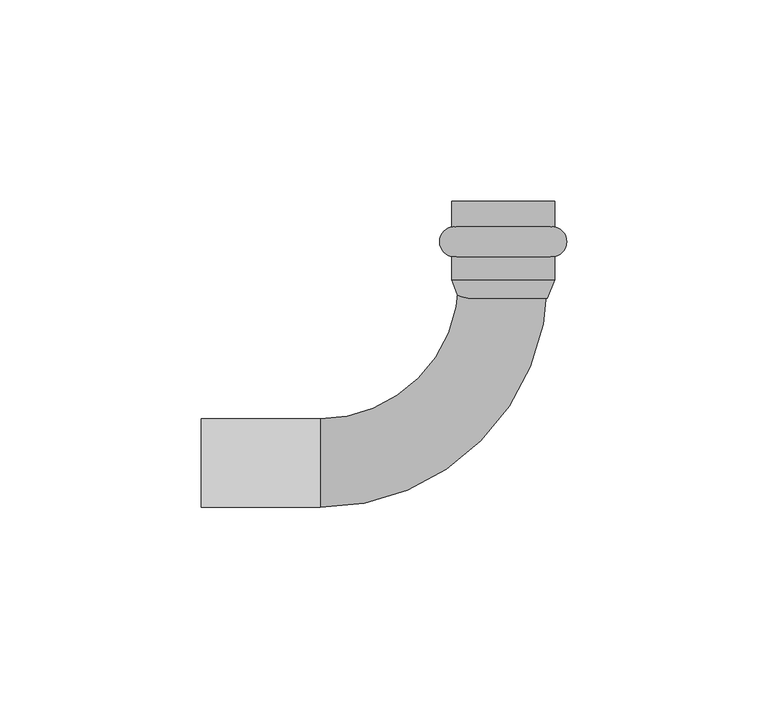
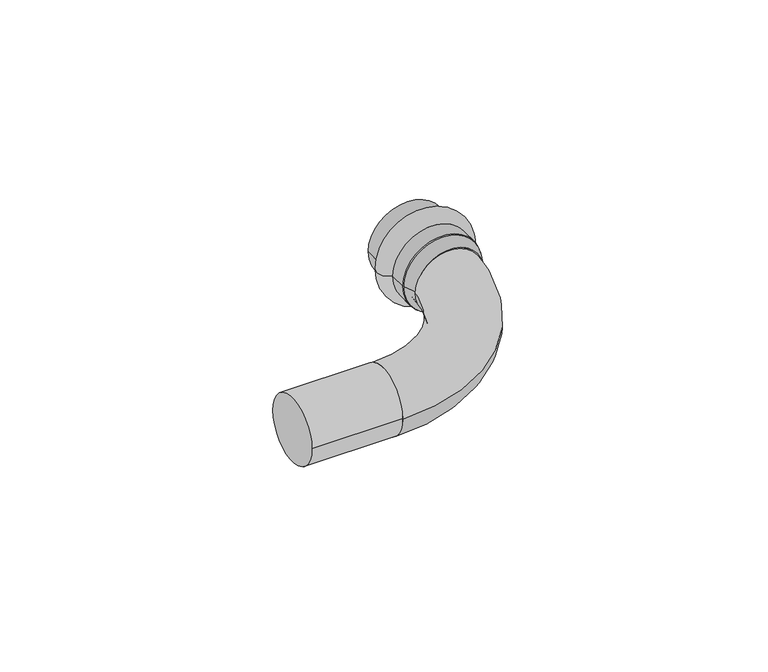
"""IFC4 building model written with IfcOpenShell, lengths in millimetres: pipe fitting geometry, VALTEC_VTi.950.I_Угольник 90° (раструб–труба) нержавеющая сталь : VTi.950.I."""

from ifc_helpers import new_model, si_unit, point, frame, origin, origin_2d, place, context, project, spatial, polyline, circle_curve, ellipse_curve, trimmed, segment, composite_curve, outline, extrude, source, transform, mapped, element, save
from ifc_brep_helpers import plane_surface, cylinder_surface, revolved_surface, advanced_brep


def pipe_fitting_78a133ea(model_context):
    return source(origin(), model_context, "Body", "SolidModel", [
        advanced_brep(
        [(-12.8, 58.6242346, 0.0), (12.8, 58.6242346, 0.0), (12.8, 51.2757654, 0.0), (-12.8, 51.2757654, 0.0), (-12.8, 65.0, 0.0), (12.8, 65.0, 0.0), (-11.0, 65.0, 0.0), (11.0, 65.0, 0.0), (-11.0, 45.5, 0.0), (11.0, 45.5, 0.0), (-12.8, 45.5, 0.0), (12.8, 45.5, 0.0)],
        [
            (0, 1, circle_curve(frame((0.0, 58.6242346, 0.0), z_axis=(0.0, -1.0, 0.0), x_axis=(1.0, 0.0, 0.0)), 12.8)),
            (1, 2, circle_curve(frame((12.05, 54.95, 0.0), z_axis=(0.0, 0.0, -1.0), x_axis=(0.0, -1.0, 0.0)), 3.75)),
            (2, 3, circle_curve(frame((0.0, 51.2757654, 0.0), z_axis=(0.0, 1.0, 0.0), x_axis=(1.0, 0.0, 0.0)), 12.8)),
            (3, 0, circle_curve(frame((-12.05, 54.95, 0.0), z_axis=(0.0, 0.0, -1.0), x_axis=(0.0, -1.0, 0.0)), 3.75)),
            (1, 0, circle_curve(frame((0.0, 58.6242346, 0.0), z_axis=(0.0, -1.0, 0.0), x_axis=(1.0, 0.0, 0.0)), 12.8)),
            (3, 2, circle_curve(frame((0.0, 51.2757654, 0.0), z_axis=(0.0, 1.0, 0.0), x_axis=(1.0, 0.0, 0.0)), 12.8)),
            (4, 5, circle_curve(frame((0.0, 65.0, 0.0), z_axis=(0.0, -1.0, 0.0), x_axis=(1.0, 0.0, 0.0)), 12.8)),
            (5, 1),
            (0, 4),
            (5, 4, circle_curve(frame((0.0, 65.0, 0.0), z_axis=(0.0, -1.0, 0.0), x_axis=(1.0, 0.0, 0.0)), 12.8)),
            (6, 7, circle_curve(frame((0.0, 65.0, 0.0), z_axis=(0.0, -1.0, 0.0), x_axis=(1.0, 0.0, 0.0)), 11.0)),
            (7, 5),
            (4, 6),
            (7, 6, circle_curve(frame((0.0, 65.0, 0.0), z_axis=(0.0, -1.0, 0.0), x_axis=(1.0, 0.0, 0.0)), 11.0)),
            (8, 9, circle_curve(frame((0.0, 45.5, 0.0), z_axis=(0.0, -1.0, 0.0), x_axis=(1.0, 0.0, 0.0)), 11.0)),
            (9, 7),
            (6, 8),
            (9, 8, circle_curve(frame((0.0, 45.5, 0.0), z_axis=(0.0, -1.0, 0.0), x_axis=(1.0, 0.0, 0.0)), 11.0)),
            (10, 11, circle_curve(frame((0.0, 45.5, 0.0), z_axis=(0.0, -1.0, 0.0), x_axis=(1.0, 0.0, 0.0)), 12.8)),
            (11, 9),
            (8, 10),
            (11, 10, circle_curve(frame((0.0, 45.5, 0.0), z_axis=(0.0, -1.0, 0.0), x_axis=(1.0, 0.0, 0.0)), 12.8)),
            (2, 11),
            (10, 3),
        ],
        [
            revolved_surface(trimmed(ellipse_curve(frame((12.05, 54.95, 0.0), z_axis=(0.0, 0.0, 1.0), x_axis=(0.0, -1.0, 0.0)), 3.75, 3.75), [point((12.8, 51.2757654, 0.0))], [point((12.8, 58.6242346, 0.0))], True, "CARTESIAN"), (0.0, 68.5364426, 0.0), (0.0, 1.0, 0.0)),
            cylinder_surface(frame((0.0, 68.5364426, 0.0), z_axis=(0.0, 1.0, 0.0), x_axis=(1.0, 0.0, 0.0)), 12.8),
            plane_surface(frame((0.0, 65.0, 0.0), z_axis=(0.0, 1.0, 0.0), x_axis=(1.0, 0.0, 0.0))),
            revolved_surface(polyline([(11.0, 65.0, 0.0), (11.0, 45.5, 0.0)]), (0.0, 68.5364426, 0.0), (0.0, 1.0, 0.0)),
            plane_surface(frame((0.0, 45.5, 0.0), z_axis=(0.0, -1.0, 0.0), x_axis=(1.0, 0.0, 0.0))),
        ],
        [
            (0, [[1, 2, 3, 4]]),
            (0, [[5, -4, 6, -2]]),
            (1, [[7, 8, -1, 9]]),
            (1, [[10, -9, -5, -8]]),
            (2, [[11, 12, -7, 13]]),
            (2, [[14, -13, -10, -12]]),
            (3, [[15, 16, -11, 17]]),
            (3, [[18, -17, -14, -16]]),
            (4, [[19, 20, -15, 21]]),
            (4, [[22, -21, -18, -20]]),
            (1, [[-3, 23, -19, 24]]),
            (1, [[-6, -24, -22, -23]]),
        ],
    ),
        extrude(outline(composite_curve([segment(trimmed(circle_curve(origin_2d(), 11.0), [point((-11.0, 0.0))], [point((11.0, 0.0))], False, "CARTESIAN"), True, "CONTINUOUS"), segment(trimmed(circle_curve(origin_2d(), 11.0), [point((11.0, 0.0))], [point((-11.0, 0.0))], False, "CARTESIAN"), True, "CONTINUOUS")], self_intersect=False)), frame((-75.0, 0.0, 0.0), z_axis=(1.0, 0.0, 0.0), x_axis=(0.0, 1.0, 0.0)), (0.0, 0.0, 1.0), 29.5),
        advanced_brep(
        [(-12.8, 45.5, 0.0), (12.8, 45.5, 0.0), (-11.0, 40.95, 0.0), (11.0, 40.95, 0.0)],
        [
            (0, 1, circle_curve(frame((0.0, 45.5, 0.0), z_axis=(0.0, 1.0, 0.0), x_axis=(-1.0, 0.0, 0.0)), 12.8)),
            (1, 0, circle_curve(frame((0.0, 45.5, 0.0), z_axis=(0.0, 1.0, 0.0), x_axis=(1.0, 0.0, 0.0)), 12.8)),
            (2, 3, circle_curve(frame((0.0, 40.95, 0.0), z_axis=(0.0, -1.0, 0.0), x_axis=(1.0, 0.0, 0.0)), 11.0)),
            (3, 2, circle_curve(frame((0.0, 40.95, 0.0), z_axis=(0.0, -1.0, 0.0), x_axis=(-1.0, 0.0, 0.0)), 11.0)),
            (2, 0),
            (1, 3),
        ],
        [
            plane_surface(frame((0.0, 45.5, 0.0), z_axis=(0.0, 1.0, 0.0), x_axis=(0.0, 0.0, -1.0))),
            plane_surface(frame((0.0, 40.95, 0.0), z_axis=(0.0, -1.0, 0.0), x_axis=(0.0, 0.0, -1.0))),
            revolved_surface(polyline([(-11.000000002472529, 40.95, 0.0), (-12.8, 45.5, 0.0)]), (0.0, 13.1444444, 0.0), (0.0, 1.0, 0.0)),
            revolved_surface(polyline([(11.000000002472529, 40.95, 0.0), (12.8, 45.5, 0.0)]), (0.0, 13.1444444, 0.0), (0.0, 1.0, 0.0)),
        ],
        [
            (0, [[1, 2]]),
            (1, [[3, 4]]),
            (2, [[-3, 5, -2, 6]]),
            (3, [[-4, -6, -1, -5]]),
        ],
    ),
        advanced_brep(
        [(-45.5, -11.0551605, 0.0), (-45.5, 10.9448395, 0.0), (11.0551605, 45.5, 0.0), (-10.9448395, 45.5, 0.0)],
        [
            (0, 1, circle_curve(frame((-45.5, -0.0551605, 0.0), z_axis=(-1.0, 0.0, 0.0), x_axis=(0.0, 1.0, 0.0)), 11.0)),
            (1, 0, circle_curve(frame((-45.5, -0.0551605, 0.0), z_axis=(-1.0, 0.0, 0.0), x_axis=(0.0, 1.0, 0.0)), 11.0)),
            (2, 3, circle_curve(frame((0.0551605, 45.5, 0.0), z_axis=(0.0, 1.0, 0.0), x_axis=(-1.0, 0.0, 0.0)), 11.0)),
            (3, 2, circle_curve(frame((0.0551605, 45.5, 0.0), z_axis=(0.0, 1.0, 0.0), x_axis=(-1.0, 0.0, 0.0)), 11.0)),
            (3, 1, circle_curve(frame((-45.5, 45.5, 0.0), z_axis=(0.0, 0.0, -1.0), x_axis=(0.0, -1.0, 0.0)), 34.5551605)),
            (0, 2, circle_curve(frame((-45.5, 45.5, 0.0), z_axis=(0.0, 0.0, 1.0), x_axis=(0.0, -1.0, 0.0)), 56.5551605)),
        ],
        [
            plane_surface(frame((-45.5, 0.0, 0.0), z_axis=(-1.0, 0.0, 0.0), x_axis=(0.0, 0.0, 1.0))),
            plane_surface(frame((0.0, 45.5, 0.0), z_axis=(0.0, 1.0, 0.0), x_axis=(0.0, 0.0, 1.0))),
            revolved_surface(trimmed(ellipse_curve(frame((-45.5, -0.0551605, 0.0), z_axis=(-1.0, 0.0, 0.0), x_axis=(0.0, 1.0, 0.0)), 11.0, 11.0), [point((-45.5, -11.0551605, 0.0))], [point((-45.5, 10.9448395, 0.0))], True, "CARTESIAN"), (-45.5, 45.5, 0.0), (0.0, 0.0, 1.0)),
            revolved_surface(trimmed(ellipse_curve(frame((-45.5, -0.0551605, 0.0), z_axis=(-1.0, 0.0, 0.0), x_axis=(0.0, 1.0, 0.0)), 11.0, 11.0), [point((-45.5, 10.9448395, 0.0))], [point((-45.5, -11.0551605, 0.0))], True, "CARTESIAN"), (-45.5, 45.5, 0.0), (0.0, 0.0, 1.0)),
        ],
        [
            (0, [[1, 2]]),
            (1, [[3, 4]]),
            (2, [[5, -1, 6, -4]]),
            (3, [[-6, -2, -5, -3]]),
        ],
    ),
    ])


if __name__ == "__main__":
    model = new_model("IFC4")
    model_context = context("Model", 3, world=origin())
    ifc_project = project(units=[si_unit("LENGTHUNIT", "METRE", prefix="MILLI")], contexts=[model_context])
    site = spatial("IfcSite", under=ifc_project)
    building = spatial("IfcBuilding", under=site)
    placement = place(None, origin())
    pipe_fitting_shape = pipe_fitting_78a133ea(model_context)
    element("IfcPipeFitting", 1, ObjectType="VALTEC_VTi.950.I_Угольник 90° (раструб–труба) нержавеющая сталь : VTi.950.I", at=placement, inside=building, context=model_context, shape_type="MappedRepresentation", body=[
        mapped(pipe_fitting_shape, transform((0.0, 0.0, 0.0), x_axis=(1.0, 0.0, 0.0), y_axis=(0.0, 1.0, 0.0), z_axis=(0.0, 0.0, 1.0))),
    ])
    save(model, "model.ifc")
